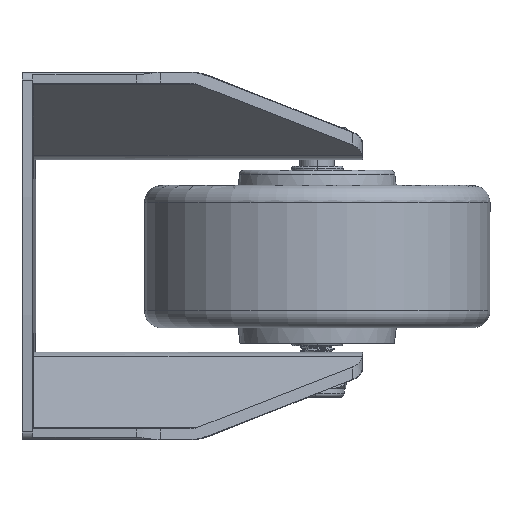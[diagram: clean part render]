
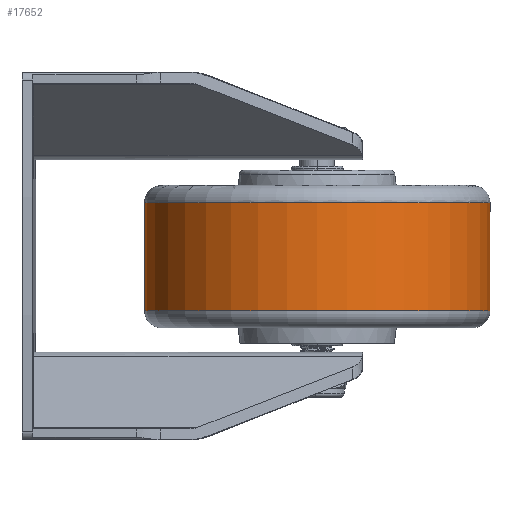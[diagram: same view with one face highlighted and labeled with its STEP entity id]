
A CAD part, left-side view. The second image highlights one B-rep face of the part: STEP entity #17652.
In plain terms, the highlighted cylindrical face has radius 40 mm (diameter 80 mm), a partial arc.
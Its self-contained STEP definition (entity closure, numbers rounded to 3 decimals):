
#1161 = CARTESIAN_POINT ( 'NONE',  ( 0., 12.5, 40. ) ) ;
#1733 = VERTEX_POINT ( 'NONE', #1161 ) ;
#2590 = CARTESIAN_POINT ( 'NONE',  ( 0., 0., -40. ) ) ;
#2685 = DIRECTION ( 'NONE',  ( 0., 0., -1. ) ) ;
#3188 = LINE ( 'NONE', #26757, #26493 ) ;
#3917 = CYLINDRICAL_SURFACE ( 'NONE', #32410, 40. ) ;
#4893 = DIRECTION ( 'NONE',  ( 0., -1., 0. ) ) ;
#4930 = DIRECTION ( 'NONE',  ( 0., -1., 0. ) ) ;
#6050 = DIRECTION ( 'NONE',  ( 0., -1., 0. ) ) ;
#6275 = ORIENTED_EDGE ( 'NONE', *, *, #30573, .F. ) ;
#6486 = CARTESIAN_POINT ( 'NONE',  ( 0., -12.5, 40. ) ) ;
#7679 = AXIS2_PLACEMENT_3D ( 'NONE', #28626, #23053, #34755 ) ;
#10393 = VECTOR ( 'NONE', #4893, 1000. ) ;
#11930 = CIRCLE ( 'NONE', #23570, 40. ) ;
#12916 = EDGE_LOOP ( 'NONE', ( #14302, #25016, #32558, #6275 ) ) ;
#13957 = DIRECTION ( 'NONE',  ( 0., 0., -1. ) ) ;
#14302 = ORIENTED_EDGE ( 'NONE', *, *, #23054, .F. ) ;
#15616 = CARTESIAN_POINT ( 'NONE',  ( 0., 0., 0. ) ) ;
#17398 = EDGE_CURVE ( 'NONE', #22371, #19769, #19662, .T. ) ;
#17652 = ADVANCED_FACE ( 'NONE', ( #30187 ), #3917, .T. ) ;
#17833 = VERTEX_POINT ( 'NONE', #6486 ) ;
#19326 = CIRCLE ( 'NONE', #7679, 40. ) ;
#19662 = LINE ( 'NONE', #2590, #10393 ) ;
#19769 = VERTEX_POINT ( 'NONE', #32842 ) ;
#22371 = VERTEX_POINT ( 'NONE', #25772 ) ;
#23053 = DIRECTION ( 'NONE',  ( 0., -1., 0. ) ) ;
#23054 = EDGE_CURVE ( 'NONE', #1733, #17833, #3188, .T. ) ;
#23570 = AXIS2_PLACEMENT_3D ( 'NONE', #31019, #4930, #13957 ) ;
#25016 = ORIENTED_EDGE ( 'NONE', *, *, #28687, .T. ) ;
#25772 = CARTESIAN_POINT ( 'NONE',  ( 0., 12.5, -40. ) ) ;
#26493 = VECTOR ( 'NONE', #6050, 1000. ) ;
#26757 = CARTESIAN_POINT ( 'NONE',  ( 0., 0., 40. ) ) ;
#27305 = DIRECTION ( 'NONE',  ( 0., -1., 0. ) ) ;
#28626 = CARTESIAN_POINT ( 'NONE',  ( 0., -12.5, 0. ) ) ;
#28687 = EDGE_CURVE ( 'NONE', #1733, #22371, #11930, .T. ) ;
#30187 = FACE_OUTER_BOUND ( 'NONE', #12916, .T. ) ;
#30573 = EDGE_CURVE ( 'NONE', #17833, #19769, #19326, .T. ) ;
#31019 = CARTESIAN_POINT ( 'NONE',  ( 0., 12.5, 0. ) ) ;
#32410 = AXIS2_PLACEMENT_3D ( 'NONE', #15616, #27305, #2685 ) ;
#32558 = ORIENTED_EDGE ( 'NONE', *, *, #17398, .T. ) ;
#32842 = CARTESIAN_POINT ( 'NONE',  ( 0., -12.5, -40. ) ) ;
#34755 = DIRECTION ( 'NONE',  ( 0., 0., -1. ) ) ;
